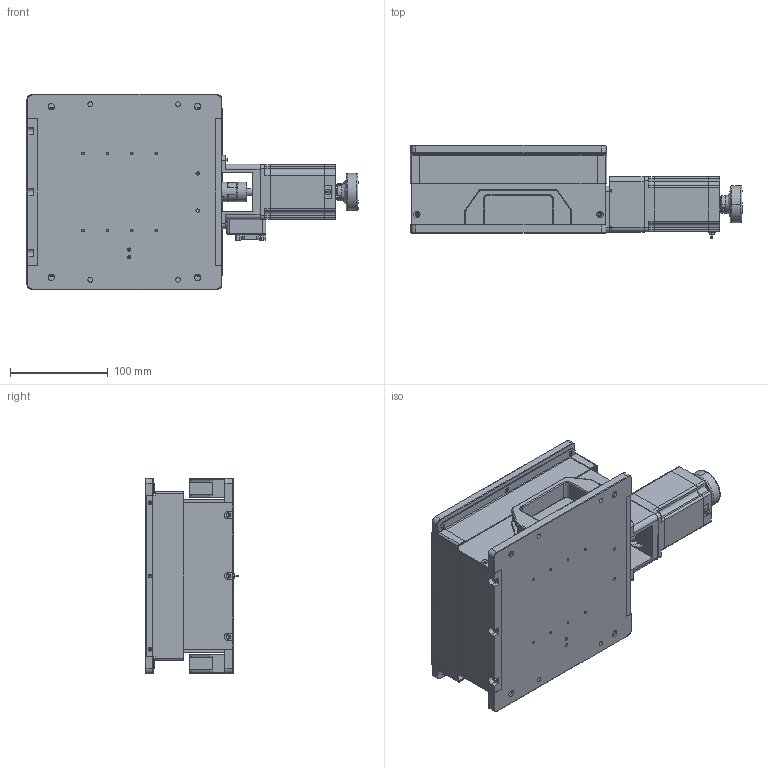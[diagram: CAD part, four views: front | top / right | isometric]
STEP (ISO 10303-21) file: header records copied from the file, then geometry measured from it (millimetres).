
FILE_DESCRIPTION (( 'STEP AP214' ), '1' );
FILE_NAME ('PT-GD425 萇雄虼倛汔蔥怢.STEP', '2023-07-22T03:34:09', ( '' ), ( '' ), 'SwSTEP 2.0', 'SolidWorks 2017', '' );
FILE_SCHEMA (( 'AUTOMOTIVE_DESIGN' ));
Length unit declared in the file: millimetre
Products named in the file (2): PT-GD425 萇雄虼倛汔蔥怢
Bounding box: 340.5 x 95.7 x 200 mm (x, y, z)
Volume: 1756414.3 mm3; surface area: 544108.7 mm2
Topology: 34 solids, 34 shells, 1918 faces, 4960 edges, 3130 vertices
Faces by surface type: cylinder 902, plane 713, cone 227, bspline 42, torus 34
Entity records: 60568 total; most frequent: CARTESIAN_POINT 11721, DIRECTION 10584, ORIENTED_EDGE 9658, EDGE_CURVE 4829, AXIS2_PLACEMENT_3D 3967, VERTEX_POINT 3128, VECTOR 2650, LINE 2650
